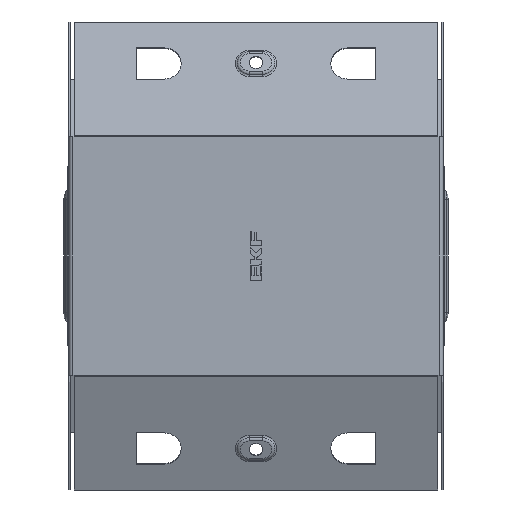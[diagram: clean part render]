
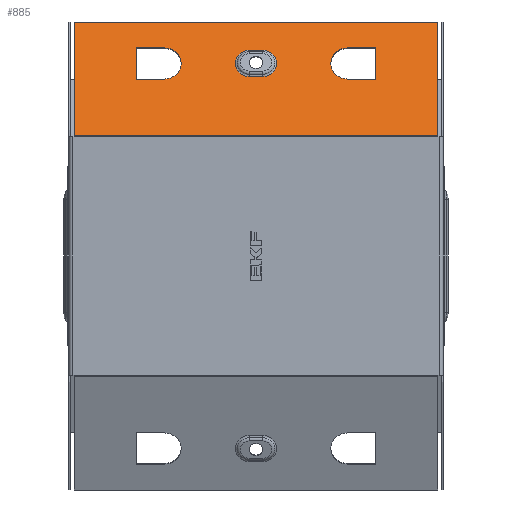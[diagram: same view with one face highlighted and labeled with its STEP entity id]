
A CAD part, front view. The second image highlights one B-rep face of the part: STEP entity #885.
In plain terms, the highlighted planar face has unit normal (0, -0.924, 0.383).
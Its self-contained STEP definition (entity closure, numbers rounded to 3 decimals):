
#20 = CARTESIAN_POINT ( 'NONE',  ( 64., -61.253, 111.267 ) ) ;
#258 = EDGE_CURVE ( 'NONE', #13438, #11844, #2356, .T. ) ;
#438 = CARTESIAN_POINT ( 'NONE',  ( -49., -68.141, 94.637 ) ) ;
#505 = CARTESIAN_POINT ( 'NONE',  ( 97.299, -80.663, 64.406 ) ) ;
#565 = EDGE_LOOP ( 'NONE', ( #9341, #10874, #8646, #3821 ) ) ;
#635 = ORIENTED_EDGE ( 'NONE', *, *, #10946, .T. ) ;
#885 = ADVANCED_FACE ( 'NONE', ( #1812, #13478, #10463, #1444 ), #12863, .F. ) ;
#1037 = CARTESIAN_POINT ( 'NONE',  ( 64., -68.141, 94.637 ) ) ;
#1098 = VECTOR ( 'NONE', #5679, 1000. ) ;
#1281 = CARTESIAN_POINT ( 'NONE',  ( 49., -64.697, 102.952 ) ) ;
#1312 = ORIENTED_EDGE ( 'NONE', *, *, #12436, .T. ) ;
#1435 = DIRECTION ( 'NONE',  ( 0., 0.924, -0.383 ) ) ;
#1444 = FACE_OUTER_BOUND ( 'NONE', #565, .T. ) ;
#1532 = CARTESIAN_POINT ( 'NONE',  ( 98.2, -80.8, 64.075 ) ) ;
#1574 = DIRECTION ( 'NONE',  ( 0., 0.383, 0.924 ) ) ;
#1657 = EDGE_CURVE ( 'NONE', #9870, #1781, #2427, .T. ) ;
#1706 = CARTESIAN_POINT ( 'NONE',  ( 49., -68.141, 94.637 ) ) ;
#1710 = EDGE_LOOP ( 'NONE', ( #13494, #10883, #5846, #1312 ) ) ;
#1716 = LINE ( 'NONE', #3691, #11963 ) ;
#1722 = DIRECTION ( 'NONE',  ( -1., 0., 0. ) ) ;
#1723 = DIRECTION ( 'NONE',  ( 0., 0.924, -0.383 ) ) ;
#1781 = VERTEX_POINT ( 'NONE', #9096 ) ;
#1812 = FACE_BOUND ( 'NONE', #9387, .T. ) ;
#1905 = CARTESIAN_POINT ( 'NONE',  ( 49., -61.253, 111.267 ) ) ;
#2356 = LINE ( 'NONE', #4960, #7691 ) ;
#2366 = DIRECTION ( 'NONE',  ( 0., 0.383, 0.924 ) ) ;
#2380 = EDGE_CURVE ( 'NONE', #3996, #11844, #12169, .T. ) ;
#2427 = LINE ( 'NONE', #8572, #6537 ) ;
#2466 = CIRCLE ( 'NONE', #13466, 7.598 ) ;
#2642 = DIRECTION ( 'NONE',  ( 0., -0.383, -0.924 ) ) ;
#2710 = EDGE_CURVE ( 'NONE', #7423, #13438, #12865, .T. ) ;
#2819 = DIRECTION ( 'NONE',  ( -1., 0., 0. ) ) ;
#2836 = VERTEX_POINT ( 'NONE', #10422 ) ;
#2862 = VECTOR ( 'NONE', #5464, 1000. ) ;
#3311 = LINE ( 'NONE', #7349, #3585 ) ;
#3481 = VERTEX_POINT ( 'NONE', #4191 ) ;
#3580 = LINE ( 'NONE', #4531, #9057 ) ;
#3585 = VECTOR ( 'NONE', #1722, 1000. ) ;
#3691 = CARTESIAN_POINT ( 'NONE',  ( -49., -61.253, 111.267 ) ) ;
#3693 = DIRECTION ( 'NONE',  ( 0., 0.383, 0.924 ) ) ;
#3706 = DIRECTION ( 'NONE',  ( 0., 0.383, 0.924 ) ) ;
#3795 = CARTESIAN_POINT ( 'NONE',  ( -49., -64.697, 102.952 ) ) ;
#3815 = AXIS2_PLACEMENT_3D ( 'NONE', #13973, #1723, #1574 ) ;
#3818 = CARTESIAN_POINT ( 'NONE',  ( -49., -61.253, 111.267 ) ) ;
#3821 = ORIENTED_EDGE ( 'NONE', *, *, #2710, .T. ) ;
#3873 = CARTESIAN_POINT ( 'NONE',  ( 3.5, -67.604, 95.932 ) ) ;
#3943 = ORIENTED_EDGE ( 'NONE', *, *, #5974, .T. ) ;
#3996 = VERTEX_POINT ( 'NONE', #505 ) ;
#4118 = DIRECTION ( 'NONE',  ( 1., 0., 0. ) ) ;
#4191 = CARTESIAN_POINT ( 'NONE',  ( -64., -61.253, 111.267 ) ) ;
#4375 = VECTOR ( 'NONE', #12279, 1000. ) ;
#4508 = LINE ( 'NONE', #6163, #6962 ) ;
#4531 = CARTESIAN_POINT ( 'NONE',  ( -64., -61.253, 111.267 ) ) ;
#4691 = ORIENTED_EDGE ( 'NONE', *, *, #13446, .T. ) ;
#4941 = ORIENTED_EDGE ( 'NONE', *, *, #5735, .T. ) ;
#4960 = CARTESIAN_POINT ( 'NONE',  ( -97.299, -80.8, 64.075 ) ) ;
#5004 = ORIENTED_EDGE ( 'NONE', *, *, #11166, .T. ) ;
#5019 = EDGE_CURVE ( 'NONE', #8683, #8694, #6468, .T. ) ;
#5308 = EDGE_CURVE ( 'NONE', #3996, #7423, #4508, .T. ) ;
#5413 = VERTEX_POINT ( 'NONE', #3873 ) ;
#5464 = DIRECTION ( 'NONE',  ( -1., 0., 0. ) ) ;
#5465 = AXIS2_PLACEMENT_3D ( 'NONE', #1281, #1435, #3693 ) ;
#5679 = DIRECTION ( 'NONE',  ( 0., -0.383, -0.924 ) ) ;
#5727 = LINE ( 'NONE', #1905, #9596 ) ;
#5735 = EDGE_CURVE ( 'NONE', #2836, #3481, #3580, .T. ) ;
#5846 = ORIENTED_EDGE ( 'NONE', *, *, #11407, .T. ) ;
#5974 = EDGE_CURVE ( 'NONE', #13909, #2836, #10307, .T. ) ;
#6009 = VERTEX_POINT ( 'NONE', #1037 ) ;
#6037 = DIRECTION ( 'NONE',  ( 0., 0.924, -0.383 ) ) ;
#6147 = CARTESIAN_POINT ( 'NONE',  ( -3.5, -67.604, 95.932 ) ) ;
#6163 = CARTESIAN_POINT ( 'NONE',  ( 97.299, -80.864, 63.921 ) ) ;
#6334 = LINE ( 'NONE', #20, #1098 ) ;
#6468 = CIRCLE ( 'NONE', #5465, 9. ) ;
#6500 = EDGE_LOOP ( 'NONE', ( #4941, #4691, #8835, #3943 ) ) ;
#6537 = VECTOR ( 'NONE', #10899, 1000. ) ;
#6962 = VECTOR ( 'NONE', #3706, 1000. ) ;
#7117 = DIRECTION ( 'NONE',  ( 1., 0., 0. ) ) ;
#7349 = CARTESIAN_POINT ( 'NONE',  ( 49., -68.141, 94.637 ) ) ;
#7423 = VERTEX_POINT ( 'NONE', #10091 ) ;
#7578 = ORIENTED_EDGE ( 'NONE', *, *, #5019, .T. ) ;
#7642 = VERTEX_POINT ( 'NONE', #6147 ) ;
#7691 = VECTOR ( 'NONE', #12876, 1000. ) ;
#8117 = DIRECTION ( 'NONE',  ( 0., 0.924, -0.383 ) ) ;
#8535 = VERTEX_POINT ( 'NONE', #3818 ) ;
#8572 = CARTESIAN_POINT ( 'NONE',  ( 3.5, -61.789, 109.972 ) ) ;
#8646 = ORIENTED_EDGE ( 'NONE', *, *, #5308, .T. ) ;
#8683 = VERTEX_POINT ( 'NONE', #1706 ) ;
#8694 = VERTEX_POINT ( 'NONE', #11771 ) ;
#8835 = ORIENTED_EDGE ( 'NONE', *, *, #10421, .T. ) ;
#9057 = VECTOR ( 'NONE', #2366, 1000. ) ;
#9096 = CARTESIAN_POINT ( 'NONE',  ( 3.5, -61.789, 109.972 ) ) ;
#9341 = ORIENTED_EDGE ( 'NONE', *, *, #258, .T. ) ;
#9380 = DIRECTION ( 'NONE',  ( 0., 0.383, 0.924 ) ) ;
#9387 = EDGE_LOOP ( 'NONE', ( #635, #7578, #12570, #5004 ) ) ;
#9557 = EDGE_CURVE ( 'NONE', #1781, #5413, #2466, .T. ) ;
#9596 = VECTOR ( 'NONE', #4118, 1000. ) ;
#9861 = CARTESIAN_POINT ( 'NONE',  ( -97.299, -80.663, 64.406 ) ) ;
#9870 = VERTEX_POINT ( 'NONE', #12395 ) ;
#10091 = CARTESIAN_POINT ( 'NONE',  ( 97.299, -55.512, 125.125 ) ) ;
#10109 = VERTEX_POINT ( 'NONE', #10794 ) ;
#10143 = EDGE_CURVE ( 'NONE', #8694, #10109, #5727, .T. ) ;
#10307 = LINE ( 'NONE', #438, #2862 ) ;
#10421 = EDGE_CURVE ( 'NONE', #8535, #13909, #10494, .T. ) ;
#10422 = CARTESIAN_POINT ( 'NONE',  ( -64., -68.141, 94.637 ) ) ;
#10463 = FACE_BOUND ( 'NONE', #1710, .T. ) ;
#10494 = CIRCLE ( 'NONE', #12908, 9. ) ;
#10624 = CARTESIAN_POINT ( 'NONE',  ( -97.299, -55.512, 125.125 ) ) ;
#10794 = CARTESIAN_POINT ( 'NONE',  ( 64., -61.253, 111.267 ) ) ;
#10874 = ORIENTED_EDGE ( 'NONE', *, *, #2380, .F. ) ;
#10883 = ORIENTED_EDGE ( 'NONE', *, *, #9557, .T. ) ;
#10899 = DIRECTION ( 'NONE',  ( 1., 0., 0. ) ) ;
#10946 = EDGE_CURVE ( 'NONE', #6009, #8683, #3311, .T. ) ;
#11103 = CIRCLE ( 'NONE', #3815, 7.598 ) ;
#11166 = EDGE_CURVE ( 'NONE', #10109, #6009, #6334, .T. ) ;
#11407 = EDGE_CURVE ( 'NONE', #5413, #7642, #14134, .T. ) ;
#11439 = VECTOR ( 'NONE', #12731, 1000. ) ;
#11771 = CARTESIAN_POINT ( 'NONE',  ( 49., -61.253, 111.267 ) ) ;
#11831 = VECTOR ( 'NONE', #2819, 1000. ) ;
#11844 = VERTEX_POINT ( 'NONE', #9861 ) ;
#11845 = AXIS2_PLACEMENT_3D ( 'NONE', #1532, #6037, #9380 ) ;
#11963 = VECTOR ( 'NONE', #7117, 1000. ) ;
#12021 = CARTESIAN_POINT ( 'NONE',  ( -49., -68.141, 94.637 ) ) ;
#12169 = LINE ( 'NONE', #13960, #11439 ) ;
#12279 = DIRECTION ( 'NONE',  ( -1., 0., 0. ) ) ;
#12395 = CARTESIAN_POINT ( 'NONE',  ( -3.5, -61.789, 109.972 ) ) ;
#12436 = EDGE_CURVE ( 'NONE', #7642, #9870, #11103, .T. ) ;
#12570 = ORIENTED_EDGE ( 'NONE', *, *, #10143, .T. ) ;
#12731 = DIRECTION ( 'NONE',  ( -1., 0., 0. ) ) ;
#12863 = PLANE ( 'NONE',  #11845 ) ;
#12865 = LINE ( 'NONE', #14204, #4375 ) ;
#12876 = DIRECTION ( 'NONE',  ( 0., -0.383, -0.924 ) ) ;
#12908 = AXIS2_PLACEMENT_3D ( 'NONE', #3795, #8117, #2642 ) ;
#13438 = VERTEX_POINT ( 'NONE', #10624 ) ;
#13446 = EDGE_CURVE ( 'NONE', #3481, #8535, #1716, .T. ) ;
#13466 = AXIS2_PLACEMENT_3D ( 'NONE', #14136, #14037, #13939 ) ;
#13478 = FACE_BOUND ( 'NONE', #6500, .T. ) ;
#13494 = ORIENTED_EDGE ( 'NONE', *, *, #1657, .T. ) ;
#13909 = VERTEX_POINT ( 'NONE', #12021 ) ;
#13939 = DIRECTION ( 'NONE',  ( 0., 0.383, 0.924 ) ) ;
#13960 = CARTESIAN_POINT ( 'NONE',  ( 98.2, -80.663, 64.406 ) ) ;
#13973 = CARTESIAN_POINT ( 'NONE',  ( -3.5, -64.697, 102.952 ) ) ;
#14037 = DIRECTION ( 'NONE',  ( 0., 0.924, -0.383 ) ) ;
#14134 = LINE ( 'NONE', #14153, #11831 ) ;
#14136 = CARTESIAN_POINT ( 'NONE',  ( 3.5, -64.697, 102.952 ) ) ;
#14153 = CARTESIAN_POINT ( 'NONE',  ( 3.5, -67.604, 95.932 ) ) ;
#14204 = CARTESIAN_POINT ( 'NONE',  ( 98.2, -55.512, 125.125 ) ) ;
